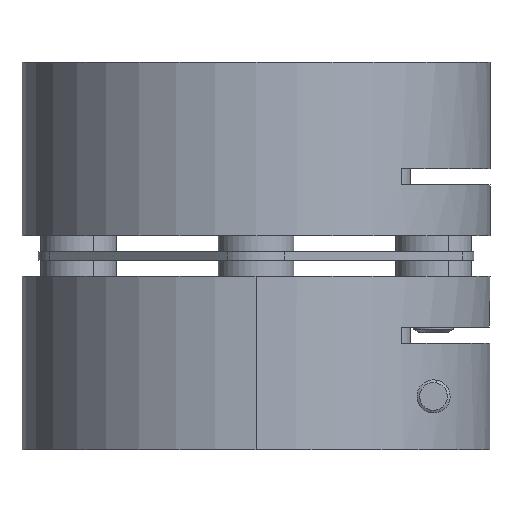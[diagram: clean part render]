
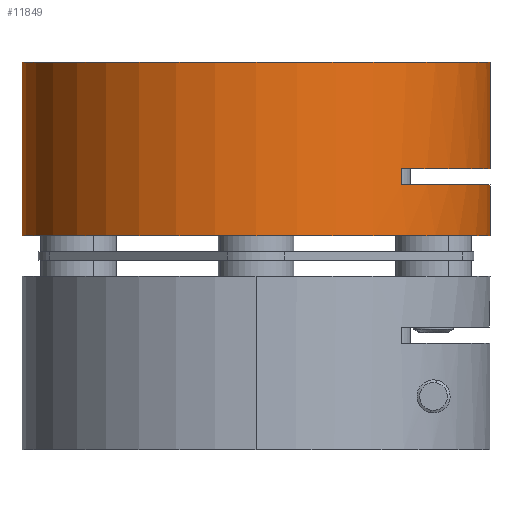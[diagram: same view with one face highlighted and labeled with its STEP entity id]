
A CAD part, front view. The second image highlights one B-rep face of the part: STEP entity #11849.
In plain terms, the highlighted cylindrical face has radius 14.5 mm (diameter 29 mm), a partial arc.
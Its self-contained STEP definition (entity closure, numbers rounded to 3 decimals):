
#187 = ORIENTED_EDGE ( 'NONE', *, *, #4295, .F. ) ;
#527 = ORIENTED_EDGE ( 'NONE', *, *, #4367, .T. ) ;
#577 = CARTESIAN_POINT ( 'NONE',  ( 41.027, 83.081, 57.543 ) ) ;
#704 = CIRCLE ( 'NONE', #5223, 14.5 ) ;
#719 = AXIS2_PLACEMENT_3D ( 'NONE', #1439, #5883, #5879 ) ;
#805 = VERTEX_POINT ( 'NONE', #12168 ) ;
#824 = CARTESIAN_POINT ( 'NONE',  ( 26.527, 83.081, 68.293 ) ) ;
#866 = CIRCLE ( 'NONE', #719, 14.5 ) ;
#869 = ORIENTED_EDGE ( 'NONE', *, *, #4097, .F. ) ;
#1439 = CARTESIAN_POINT ( 'NONE',  ( 26.527, 83.081, 60.693 ) ) ;
#1441 = AXIS2_PLACEMENT_3D ( 'NONE', #5650, #5627, #5589 ) ;
#1737 = CARTESIAN_POINT ( 'NONE',  ( 35.529, 71.713, 61.693 ) ) ;
#2794 = CARTESIAN_POINT ( 'NONE',  ( 41.027, 83.081, 61.693 ) ) ;
#3163 = VERTEX_POINT ( 'NONE', #4830 ) ;
#3197 = FACE_OUTER_BOUND ( 'NONE', #8856, .T. ) ;
#3242 = LINE ( 'NONE', #12261, #8735 ) ;
#3676 = LINE ( 'NONE', #6100, #6132 ) ;
#4097 = EDGE_CURVE ( 'NONE', #805, #6428, #3242, .T. ) ;
#4295 = EDGE_CURVE ( 'NONE', #3163, #5332, #9187, .T. ) ;
#4367 = EDGE_CURVE ( 'NONE', #7054, #12364, #6148, .T. ) ;
#4557 = EDGE_CURVE ( 'NONE', #7054, #805, #704, .T. ) ;
#4579 = EDGE_CURVE ( 'NONE', #12364, #5332, #5980, .T. ) ;
#4660 = EDGE_CURVE ( 'NONE', #3163, #13412, #866, .T. ) ;
#4699 = EDGE_CURVE ( 'NONE', #9138, #13412, #3676, .T. ) ;
#4714 = EDGE_CURVE ( 'NONE', #6428, #9138, #11908, .T. ) ;
#4830 = CARTESIAN_POINT ( 'NONE',  ( 41.027, 83.081, 60.693 ) ) ;
#5069 = DIRECTION ( 'NONE',  ( -1., 0., 0. ) ) ;
#5223 = AXIS2_PLACEMENT_3D ( 'NONE', #7053, #7040, #7002 ) ;
#5332 = VERTEX_POINT ( 'NONE', #577 ) ;
#5589 = DIRECTION ( 'NONE',  ( -1., 0., 0. ) ) ;
#5627 = DIRECTION ( 'NONE',  ( 0., 0., -1. ) ) ;
#5650 = CARTESIAN_POINT ( 'NONE',  ( 26.527, 83.081, 61.693 ) ) ;
#5724 = DIRECTION ( 'NONE',  ( 0., 0., -1. ) ) ;
#5879 = DIRECTION ( 'NONE',  ( -1., 0., 0. ) ) ;
#5883 = DIRECTION ( 'NONE',  ( 0., 0., -1. ) ) ;
#5926 = AXIS2_PLACEMENT_3D ( 'NONE', #6957, #6944, #6941 ) ;
#5967 = DIRECTION ( 'NONE',  ( 0., 0., -1. ) ) ;
#5980 = CIRCLE ( 'NONE', #5926, 14.5 ) ;
#6100 = CARTESIAN_POINT ( 'NONE',  ( 35.529, 71.713, 61.693 ) ) ;
#6113 = CARTESIAN_POINT ( 'NONE',  ( 12.027, 83.081, 57.543 ) ) ;
#6132 = VECTOR ( 'NONE', #5724, 1000. ) ;
#6148 = LINE ( 'NONE', #8783, #8528 ) ;
#6428 = VERTEX_POINT ( 'NONE', #2794 ) ;
#6616 = CARTESIAN_POINT ( 'NONE',  ( 35.529, 71.713, 60.693 ) ) ;
#6941 = DIRECTION ( 'NONE',  ( 1., 0., 0. ) ) ;
#6944 = DIRECTION ( 'NONE',  ( 0., 0., 1. ) ) ;
#6957 = CARTESIAN_POINT ( 'NONE',  ( 26.527, 83.081, 57.543 ) ) ;
#7002 = DIRECTION ( 'NONE',  ( 1., 0., 0. ) ) ;
#7040 = DIRECTION ( 'NONE',  ( 0., 0., 1. ) ) ;
#7053 = CARTESIAN_POINT ( 'NONE',  ( 26.527, 83.081, 68.293 ) ) ;
#7054 = VERTEX_POINT ( 'NONE', #11529 ) ;
#7093 = DIRECTION ( 'NONE',  ( 0., 0., -1. ) ) ;
#8528 = VECTOR ( 'NONE', #5967, 1000. ) ;
#8735 = VECTOR ( 'NONE', #12531, 1000. ) ;
#8783 = CARTESIAN_POINT ( 'NONE',  ( 12.027, 83.081, 68.293 ) ) ;
#8856 = EDGE_LOOP ( 'NONE', ( #869, #11619, #527, #11295, #187, #13291, #10656, #12980 ) ) ;
#9012 = DIRECTION ( 'NONE',  ( 0., 0., -1. ) ) ;
#9138 = VERTEX_POINT ( 'NONE', #1737 ) ;
#9187 = LINE ( 'NONE', #9353, #11626 ) ;
#9353 = CARTESIAN_POINT ( 'NONE',  ( 41.027, 83.081, 68.293 ) ) ;
#10656 = ORIENTED_EDGE ( 'NONE', *, *, #4699, .F. ) ;
#11295 = ORIENTED_EDGE ( 'NONE', *, *, #4579, .T. ) ;
#11529 = CARTESIAN_POINT ( 'NONE',  ( 12.027, 83.081, 68.293 ) ) ;
#11619 = ORIENTED_EDGE ( 'NONE', *, *, #4557, .F. ) ;
#11626 = VECTOR ( 'NONE', #9012, 1000. ) ;
#11849 = ADVANCED_FACE ( 'NONE', ( #3197 ), #12824, .T. ) ;
#11908 = CIRCLE ( 'NONE', #1441, 14.5 ) ;
#12168 = CARTESIAN_POINT ( 'NONE',  ( 41.027, 83.081, 68.293 ) ) ;
#12261 = CARTESIAN_POINT ( 'NONE',  ( 41.027, 83.081, 68.293 ) ) ;
#12364 = VERTEX_POINT ( 'NONE', #6113 ) ;
#12531 = DIRECTION ( 'NONE',  ( 0., 0., -1. ) ) ;
#12824 = CYLINDRICAL_SURFACE ( 'NONE', #13083, 14.5 ) ;
#12980 = ORIENTED_EDGE ( 'NONE', *, *, #4714, .F. ) ;
#13083 = AXIS2_PLACEMENT_3D ( 'NONE', #824, #7093, #5069 ) ;
#13291 = ORIENTED_EDGE ( 'NONE', *, *, #4660, .T. ) ;
#13412 = VERTEX_POINT ( 'NONE', #6616 ) ;
